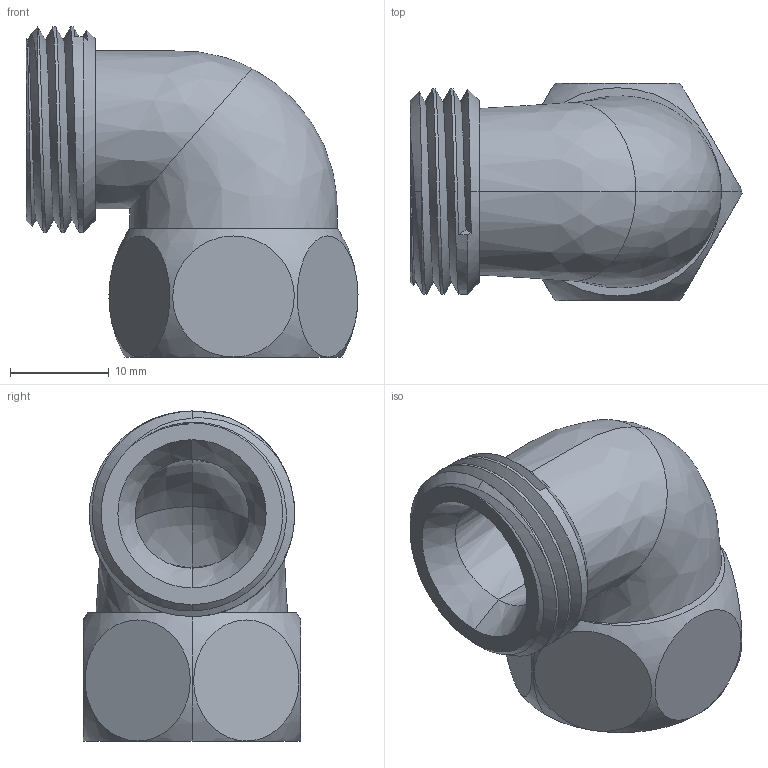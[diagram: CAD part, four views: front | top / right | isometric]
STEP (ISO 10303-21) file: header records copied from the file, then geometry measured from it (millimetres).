
FILE_DESCRIPTION (( 'STEP AP203' ), '1' );
FILE_NAME ('38X12.STEP', '2012-07-02T23:58:47', ( 'Administrators' ), ( 'JUJUMAO' ), 'SwSTEP 2.0', 'SolidWorks 2008', '' );
FILE_SCHEMA (( 'CONFIG_CONTROL_DESIGN' ));
Length unit declared in the file: millimetre
Products named in the file (1): 38X12
Bounding box: 33.6 x 22 x 33.4 mm (x, y, z)
Volume: 6411.1 mm3; surface area: 5427.1 mm2
Topology: 1 solids, 1 shells, 61 faces, 163 edges, 106 vertices
Faces by surface type: cylinder 22, plane 14, bspline 12, cone 11, torus 2
Entity records: 4934 total; most frequent: CARTESIAN_POINT 3574, ORIENTED_EDGE 322, DIRECTION 203, EDGE_CURVE 161, VERTEX_POINT 105, AXIS2_PLACEMENT_3D 83, EDGE_LOOP 66, ADVANCED_FACE 61
